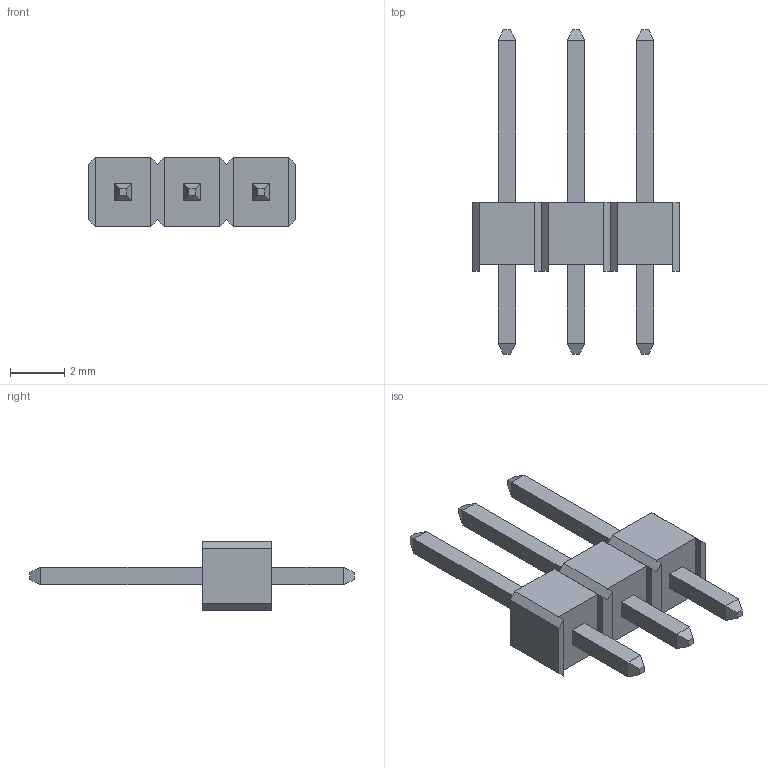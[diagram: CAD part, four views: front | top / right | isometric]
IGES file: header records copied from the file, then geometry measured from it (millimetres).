
Start section:  PTC IGES file: zl201-3_p2-54_l7-62_w2-54_h8-89.igs
Global section: file name: zl201-3_p2-54_l7-62_w2-54_h8-89.igs; native system: Pro/ENGINEER by Parametric Technology Corporation; preprocessor: 2004440; author: Dragos; organization: Unknown; date: 190118.182700; units: millimetre
Bounding box: 7.62 x 11.94 x 2.54 mm (x, y, z)
Volume: 56 mm3; surface area: 162.7 mm2
Topology: 1 solids, 1 shells, 88 faces, 204 edges, 124 vertices
Faces by surface type: bspline 88
